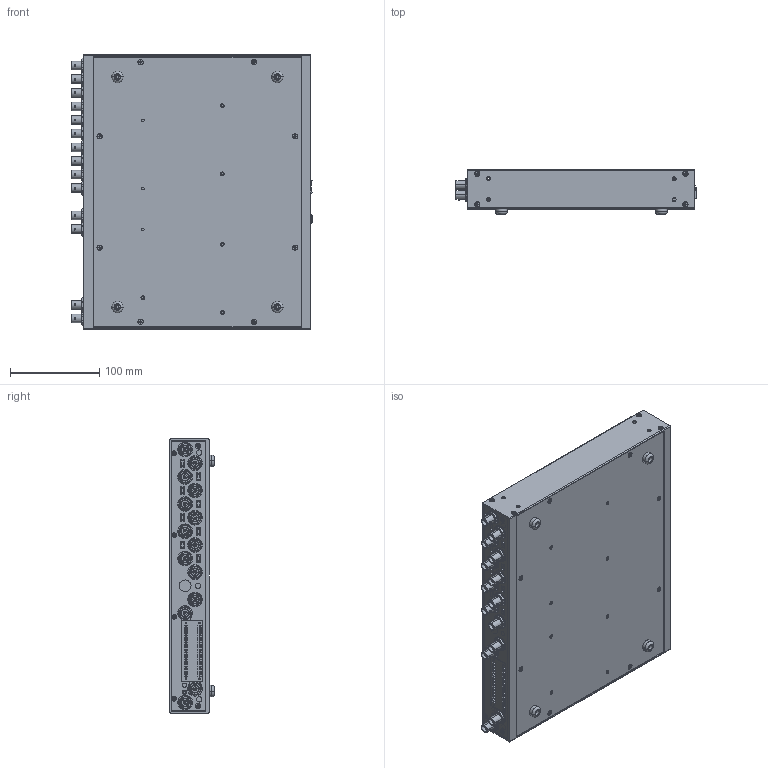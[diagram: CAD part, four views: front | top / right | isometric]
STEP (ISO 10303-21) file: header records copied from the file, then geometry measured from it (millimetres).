
FILE_DESCRIPTION((''),'2;1');
FILE_NAME('CU_USB_DAQPAD_BNC','2007-08-27T',('jpearson'),(''),'PRO/ENGINEER BY PARAMETRIC TECHNOLOGY CORPORATION, 2006080','PRO/ENGINEER BY PARAMETRIC TECHNOLOGY CORPORATION, 2006080','');
FILE_SCHEMA(('CONFIG_CONTROL_DESIGN'));
Products named in the file (1): CU_USB_DAQPAD_BNC
Bounding box: 269.23 x 49.78 x 306.32 mm (x, y, z)
Volume: 615911.2 mm3; surface area: 592895.2 mm2
Topology: 34 solids, 35 shells, 4359 faces, 11221 edges, 6682 vertices
Faces by surface type: plane 2287, cylinder 1102, bspline 628, cone 258, torus 46, sphere 38
Entity records: 154237 total; most frequent: CARTESIAN_POINT 51905, ORIENTED_EDGE 21218, DIRECTION 20136, EDGE_CURVE 10609, VERTEX_POINT 7385, AXIS2_PLACEMENT_3D 6773, VECTOR 6590, LINE 6590
